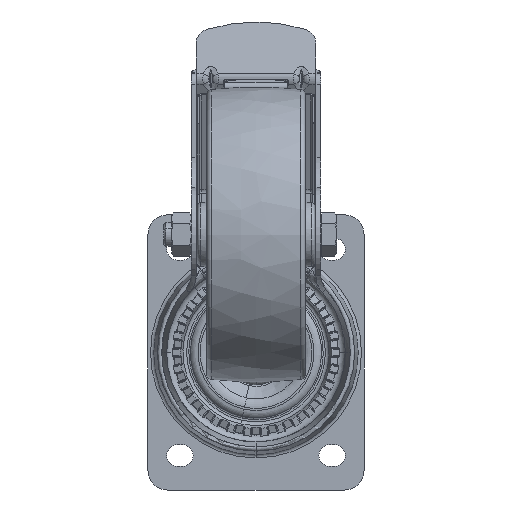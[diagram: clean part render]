
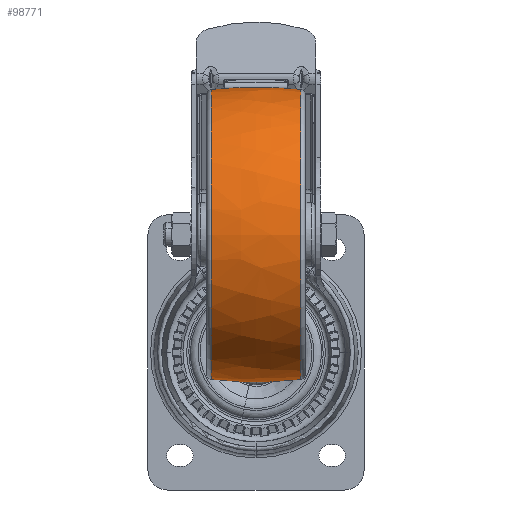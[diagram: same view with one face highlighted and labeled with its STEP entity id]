
A CAD part, front view. The second image highlights one B-rep face of the part: STEP entity #98771.
In plain terms, the highlighted free-form (B-spline) face has degree [3, 3] with [7, 4] control points.
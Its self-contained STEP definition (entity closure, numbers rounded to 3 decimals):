
#235 = ORIENTED_EDGE ( 'NONE', *, *, #53334, .T. ) ;
#1194 = AXIS2_PLACEMENT_3D ( 'NONE', #14221, #95225, #68182 ) ;
#1884 = VERTEX_POINT ( 'NONE', #48411 ) ;
#5161 = FACE_OUTER_BOUND ( 'NONE', #45065, .T. ) ;
#6749 = CARTESIAN_POINT ( 'NONE',  ( -7.935, 46.445, 75.472 ) ) ;
#7142 = CARTESIAN_POINT ( 'NONE',  ( 23.692, 0., 73.592 ) ) ;
#11447 = AXIS2_PLACEMENT_3D ( 'NONE', #53040, #114850, #61610 ) ;
#13173 = ORIENTED_EDGE ( 'NONE', *, *, #84059, .F. ) ;
#14221 = CARTESIAN_POINT ( 'NONE',  ( 22.785, 0., 0. ) ) ;
#15343 = CARTESIAN_POINT ( 'NONE',  ( -23.692, 73.447, -4.621 ) ) ;
#15714 = CARTESIAN_POINT ( 'NONE',  ( 23.692, 45.288, 73.592 ) ) ;
#16092 = CARTESIAN_POINT ( 'NONE',  ( -7.935, -46.445, 75.472 ) ) ;
#16480 = CARTESIAN_POINT ( 'NONE',  ( 7.935, 75.323, -4.739 ) ) ;
#17651 = CARTESIAN_POINT ( 'NONE',  ( -23.692, -73.447, -4.621 ) ) ;
#17801 = VERTEX_POINT ( 'NONE', #41540 ) ;
#18215 = EDGE_CURVE ( 'NONE', #26616, #17801, #82276, .T. ) ;
#20386 = VERTEX_POINT ( 'NONE', #79871 ) ;
#24984 = DIRECTION ( 'NONE',  ( 0., 0., 1. ) ) ;
#25110 = CARTESIAN_POINT ( 'NONE',  ( 7.935, 78.239, 41.615 ) ) ;
#25903 = CARTESIAN_POINT ( 'NONE',  ( 23.692, -45.288, 73.592 ) ) ;
#26210 = CARTESIAN_POINT ( 'NONE',  ( -22.785, 0., 0. ) ) ;
#26616 = VERTEX_POINT ( 'NONE', #53726 ) ;
#27082 = CARTESIAN_POINT ( 'NONE',  ( 23.692, -76.29, 40.578 ) ) ;
#27130 = EDGE_CURVE ( 'NONE', #20386, #1884, #79338, .T. ) ;
#27470 = CARTESIAN_POINT ( 'NONE',  ( 7.935, -75.323, -4.739 ) ) ;
#27842 =( BOUNDED_SURFACE ( )  B_SPLINE_SURFACE ( 3, 3, ( 
 ( #15343, #77916, #16480, #34160 ),
 ( #104915, #96709, #25110, #51374 ),
 ( #60330, #6749, #51741, #15714 ),
 ( #78296, #114329, #60709, #7142 ),
 ( #69680, #16092, #98269, #25903 ),
 ( #80597, #53672, #71624, #27082 ),
 ( #17651, #80975, #27470, #70838 ) ),
 .UNSPECIFIED., .F., .F., .F. ) 
 B_SPLINE_SURFACE_WITH_KNOTS ( ( 4, 3, 4 ),
 ( 4, 4 ),
 ( 0., 1., 2. ),
 ( 0., 1. ),
 .UNSPECIFIED. ) 
 GEOMETRIC_REPRESENTATION_ITEM ( )  RATIONAL_B_SPLINE_SURFACE ( (
 ( 1.191, 1.186, 1.186, 1.191),
 ( 0.941, 0.936, 0.936, 0.941),
 ( 0.941, 0.936, 0.936, 0.941),
 ( 1.191, 1.186, 1.186, 1.191),
 ( 0.941, 0.936, 0.936, 0.941),
 ( 0.941, 0.936, 0.936, 0.941),
 ( 1.191, 1.186, 1.186, 1.191) ) ) 
 REPRESENTATION_ITEM ( '' )  SURFACE ( )  );
#34160 = CARTESIAN_POINT ( 'NONE',  ( 23.692, 73.447, -4.621 ) ) ;
#39292 = CIRCLE ( 'NONE', #49314, 200. ) ;
#41210 = ORIENTED_EDGE ( 'NONE', *, *, #18215, .F. ) ;
#41540 = CARTESIAN_POINT ( 'NONE',  ( 22.785, -73.698, 0. ) ) ;
#45065 = EDGE_LOOP ( 'NONE', ( #108042, #13173, #41210, #235 ) ) ;
#45337 = DIRECTION ( 'NONE',  ( 1., 0., 0. ) ) ;
#48411 = CARTESIAN_POINT ( 'NONE',  ( -22.785, -73.698, 0. ) ) ;
#48856 = CIRCLE ( 'NONE', #11447, 200. ) ;
#49314 = AXIS2_PLACEMENT_3D ( 'NONE', #59049, #24984, #104010 ) ;
#51374 = CARTESIAN_POINT ( 'NONE',  ( 23.692, 76.29, 40.578 ) ) ;
#51741 = CARTESIAN_POINT ( 'NONE',  ( 7.935, 46.445, 75.472 ) ) ;
#53040 = CARTESIAN_POINT ( 'NONE',  ( 0., 125., 0. ) ) ;
#53334 = EDGE_CURVE ( 'NONE', #26616, #20386, #39292, .T. ) ;
#53672 = CARTESIAN_POINT ( 'NONE',  ( -7.935, -78.239, 41.615 ) ) ;
#53726 = CARTESIAN_POINT ( 'NONE',  ( 22.785, 73.698, 0. ) ) ;
#54348 = DIRECTION ( 'NONE',  ( 0., 1., 0. ) ) ;
#59049 = CARTESIAN_POINT ( 'NONE',  ( 0., -125., 0. ) ) ;
#60330 = CARTESIAN_POINT ( 'NONE',  ( -23.692, 45.288, 73.592 ) ) ;
#60709 = CARTESIAN_POINT ( 'NONE',  ( 7.935, 0., 75.472 ) ) ;
#61610 = DIRECTION ( 'NONE',  ( 0.114, -0.993, 0. ) ) ;
#68182 = DIRECTION ( 'NONE',  ( 0., 1., 0. ) ) ;
#69680 = CARTESIAN_POINT ( 'NONE',  ( -23.692, -45.288, 73.592 ) ) ;
#70838 = CARTESIAN_POINT ( 'NONE',  ( 23.692, -73.447, -4.621 ) ) ;
#71624 = CARTESIAN_POINT ( 'NONE',  ( 7.935, -78.239, 41.615 ) ) ;
#77916 = CARTESIAN_POINT ( 'NONE',  ( -7.935, 75.323, -4.739 ) ) ;
#78296 = CARTESIAN_POINT ( 'NONE',  ( -23.692, 0., 73.592 ) ) ;
#79338 = CIRCLE ( 'NONE', #79938, 73.698 ) ;
#79871 = CARTESIAN_POINT ( 'NONE',  ( -22.785, 73.698, 0. ) ) ;
#79938 = AXIS2_PLACEMENT_3D ( 'NONE', #26210, #45337, #54348 ) ;
#80597 = CARTESIAN_POINT ( 'NONE',  ( -23.692, -76.29, 40.578 ) ) ;
#80975 = CARTESIAN_POINT ( 'NONE',  ( -7.935, -75.323, -4.739 ) ) ;
#82276 = CIRCLE ( 'NONE', #1194, 73.698 ) ;
#84059 = EDGE_CURVE ( 'NONE', #17801, #1884, #48856, .T. ) ;
#95225 = DIRECTION ( 'NONE',  ( 1., 0., 0. ) ) ;
#96709 = CARTESIAN_POINT ( 'NONE',  ( -7.935, 78.239, 41.615 ) ) ;
#98269 = CARTESIAN_POINT ( 'NONE',  ( 7.935, -46.445, 75.472 ) ) ;
#98771 = ADVANCED_FACE ( 'NONE', ( #5161 ), #27842, .T. ) ;
#104010 = DIRECTION ( 'NONE',  ( 0.114, 0.993, 0. ) ) ;
#104915 = CARTESIAN_POINT ( 'NONE',  ( -23.692, 76.29, 40.578 ) ) ;
#108042 = ORIENTED_EDGE ( 'NONE', *, *, #27130, .T. ) ;
#114329 = CARTESIAN_POINT ( 'NONE',  ( -7.935, 0., 75.472 ) ) ;
#114850 = DIRECTION ( 'NONE',  ( 0., 0., -1. ) ) ;
